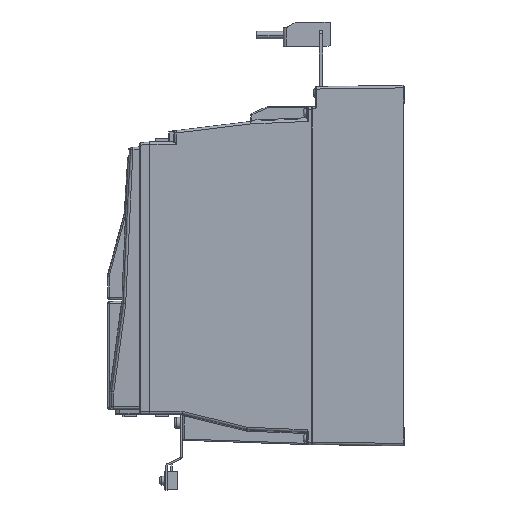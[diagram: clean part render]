
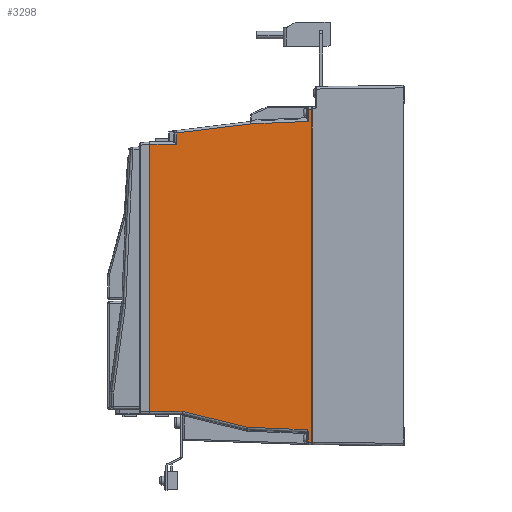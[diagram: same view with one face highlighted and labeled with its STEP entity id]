
A CAD part, left-side view. The second image highlights one B-rep face of the part: STEP entity #3298.
In plain terms, the highlighted planar face has unit normal (-1, 0, 0).
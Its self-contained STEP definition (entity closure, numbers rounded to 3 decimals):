
#18 = LINE ( 'NONE', #28671, #41601 ) ;
#99 = VERTEX_POINT ( 'NONE', #32065 ) ;
#129 = CARTESIAN_POINT ( 'NONE',  ( -64., 76.5, -289. ) ) ;
#155 = DIRECTION ( 'NONE',  ( 0., -1., 0. ) ) ;
#380 = CARTESIAN_POINT ( 'NONE',  ( -64., 76.5, -279.014 ) ) ;
#1243 = CARTESIAN_POINT ( 'NONE',  ( -64., 204.2, -47.5 ) ) ;
#1451 = ORIENTED_EDGE ( 'NONE', *, *, #32781, .T. ) ;
#2927 = CARTESIAN_POINT ( 'NONE',  ( -64., 177.407, -262.5 ) ) ;
#3298 = ADVANCED_FACE ( 'NONE', ( #16461 ), #48890, .F. ) ;
#3508 = VECTOR ( 'NONE', #31569, 1000. ) ;
#3524 = CARTESIAN_POINT ( 'NONE',  ( -64., 76.5, -28.98 ) ) ;
#4662 = DIRECTION ( 'NONE',  ( 0., 0., -1. ) ) ;
#4669 = CARTESIAN_POINT ( 'NONE',  ( -64., 202.8, -289. ) ) ;
#5917 = ORIENTED_EDGE ( 'NONE', *, *, #46288, .T. ) ;
#6467 = CARTESIAN_POINT ( 'NONE',  ( -64., 73.67, -287. ) ) ;
#7067 = CARTESIAN_POINT ( 'NONE',  ( -64., 77.259, -277.308 ) ) ;
#7097 = ORIENTED_EDGE ( 'NONE', *, *, #41818, .T. ) ;
#7594 = VECTOR ( 'NONE', #48138, 1000. ) ;
#8233 = EDGE_CURVE ( 'NONE', #29311, #42803, #33007, .T. ) ;
#8656 = CARTESIAN_POINT ( 'NONE',  ( -64., 76.535, -278.634 ) ) ;
#9172 = VERTEX_POINT ( 'NONE', #50205 ) ;
#10115 = ORIENTED_EDGE ( 'NONE', *, *, #41756, .T. ) ;
#10943 = CARTESIAN_POINT ( 'NONE',  ( -64., 213.846, -34.952 ) ) ;
#11433 = CARTESIAN_POINT ( 'NONE',  ( -64., 202.8, -47.5 ) ) ;
#12418 = CARTESIAN_POINT ( 'NONE',  ( -64., 76.5, -278.822 ) ) ;
#13084 = VECTOR ( 'NONE', #39873, 1000. ) ;
#13122 = DIRECTION ( 'NONE',  ( 0., -0.999, -0.041 ) ) ;
#14925 = CARTESIAN_POINT ( 'NONE',  ( -64., 125.725, -275.044 ) ) ;
#15289 = LINE ( 'NONE', #27361, #31877 ) ;
#15447 = LINE ( 'NONE', #11433, #19567 ) ;
#16136 = CARTESIAN_POINT ( 'NONE',  ( -64., 202.8, -262.5 ) ) ;
#16210 = LINE ( 'NONE', #40319, #51576 ) ;
#16264 = VERTEX_POINT ( 'NONE', #28644 ) ;
#16461 = FACE_OUTER_BOUND ( 'NONE', #43603, .T. ) ;
#16824 = ORIENTED_EDGE ( 'NONE', *, *, #32892, .T. ) ;
#17149 = LINE ( 'NONE', #40999, #52457 ) ;
#19567 = VECTOR ( 'NONE', #24299, 1000. ) ;
#21647 = CARTESIAN_POINT ( 'NONE',  ( -64., 77.5, -277.013 ) ) ;
#21985 = VERTEX_POINT ( 'NONE', #14925 ) ;
#23189 = VECTOR ( 'NONE', #32373, 1000. ) ;
#23418 = CARTESIAN_POINT ( 'NONE',  ( -64., 77.016, -277.606 ) ) ;
#23740 = DIRECTION ( 'NONE',  ( 0., 1., 0. ) ) ;
#23875 = DIRECTION ( 'NONE',  ( 0., 0.993, -0.121 ) ) ;
#24299 = DIRECTION ( 'NONE',  ( 0., 1., 0. ) ) ;
#25031 = LINE ( 'NONE', #129, #47976 ) ;
#25543 = CARTESIAN_POINT ( 'NONE',  ( -64., 76.5, -19. ) ) ;
#25761 = ORIENTED_EDGE ( 'NONE', *, *, #34411, .T. ) ;
#26056 = ORIENTED_EDGE ( 'NONE', *, *, #53025, .T. ) ;
#27361 = CARTESIAN_POINT ( 'NONE',  ( -64., 232.631, -44.384 ) ) ;
#27555 = LINE ( 'NONE', #10943, #3508 ) ;
#27748 = LINE ( 'NONE', #44075, #51463 ) ;
#27809 = EDGE_CURVE ( 'NONE', #99, #32521, #15447, .T. ) ;
#27861 = EDGE_CURVE ( 'NONE', #29311, #32521, #39562, .T. ) ;
#28644 = CARTESIAN_POINT ( 'NONE',  ( -64., 73.67, -19. ) ) ;
#28671 = CARTESIAN_POINT ( 'NONE',  ( -64., 125.536, -275.09 ) ) ;
#29311 = VERTEX_POINT ( 'NONE', #35167 ) ;
#30012 = VERTEX_POINT ( 'NONE', #6467 ) ;
#30435 = EDGE_CURVE ( 'NONE', #16264, #30012, #48993, .T. ) ;
#30555 = VECTOR ( 'NONE', #41039, 1000. ) ;
#31070 = VECTOR ( 'NONE', #23740, 1000. ) ;
#31273 = CARTESIAN_POINT ( 'NONE',  ( -64., 204.2, -262.5 ) ) ;
#31569 = DIRECTION ( 'NONE',  ( 0., 0.999, -0.043 ) ) ;
#31877 = VECTOR ( 'NONE', #23875, 1000. ) ;
#31886 = DIRECTION ( 'NONE',  ( 0., -0.972, -0.236 ) ) ;
#32065 = CARTESIAN_POINT ( 'NONE',  ( -64., 182.5, -47.5 ) ) ;
#32310 = CARTESIAN_POINT ( 'NONE',  ( -64., 202.8, -19. ) ) ;
#32373 = DIRECTION ( 'NONE',  ( 0., 0., -1. ) ) ;
#32514 = CARTESIAN_POINT ( 'NONE',  ( -64., 76.652, -278.27 ) ) ;
#32521 = VERTEX_POINT ( 'NONE', #1243 ) ;
#32672 = VERTEX_POINT ( 'NONE', #40550 ) ;
#32781 = EDGE_CURVE ( 'NONE', #9172, #30012, #16210, .T. ) ;
#32815 = DIRECTION ( 'NONE',  ( 1., 0., 0. ) ) ;
#32892 = EDGE_CURVE ( 'NONE', #35029, #38570, #27748, .T. ) ;
#32907 = CARTESIAN_POINT ( 'NONE',  ( -64., 73.67, -19. ) ) ;
#33007 = LINE ( 'NONE', #16136, #30555 ) ;
#34411 = EDGE_CURVE ( 'NONE', #34905, #99, #52219, .T. ) ;
#34905 = VERTEX_POINT ( 'NONE', #35277 ) ;
#35029 = VERTEX_POINT ( 'NONE', #25543 ) ;
#35167 = CARTESIAN_POINT ( 'NONE',  ( -64., 204.2, -262.5 ) ) ;
#35277 = CARTESIAN_POINT ( 'NONE',  ( -64., 182.5, -38.271 ) ) ;
#35599 = CARTESIAN_POINT ( 'NONE',  ( -64., 182.5, -289. ) ) ;
#36043 = DIRECTION ( 'NONE',  ( 0., 0., -1. ) ) ;
#36753 = ORIENTED_EDGE ( 'NONE', *, *, #46858, .T. ) ;
#36782 = ORIENTED_EDGE ( 'NONE', *, *, #8233, .T. ) ;
#36903 = B_SPLINE_CURVE_WITH_KNOTS ( 'NONE', 3,
 ( #43767, #7067, #23418, #39738, #32514, #8656, #12418, #380 ),
 .UNSPECIFIED., .F., .F.,
 ( 4, 2, 2, 4 ),
 ( 0., 0.001, 0.002, 0.002 ),
 .UNSPECIFIED. ) ;
#38570 = VERTEX_POINT ( 'NONE', #3524 ) ;
#39562 = LINE ( 'NONE', #31273, #7594 ) ;
#39738 = CARTESIAN_POINT ( 'NONE',  ( -64., 76.733, -278.099 ) ) ;
#39873 = DIRECTION ( 'NONE',  ( 0., 0., -1. ) ) ;
#40319 = CARTESIAN_POINT ( 'NONE',  ( -64., 202.8, -287. ) ) ;
#40550 = CARTESIAN_POINT ( 'NONE',  ( -64., 122.835, -30.995 ) ) ;
#40999 = CARTESIAN_POINT ( 'NONE',  ( -64., 76.92, -277.036 ) ) ;
#41039 = DIRECTION ( 'NONE',  ( 0., -1., 0. ) ) ;
#41601 = VECTOR ( 'NONE', #31886, 1000. ) ;
#41756 = EDGE_CURVE ( 'NONE', #51259, #9172, #25031, .T. ) ;
#41818 = EDGE_CURVE ( 'NONE', #38570, #32672, #27555, .T. ) ;
#42481 = AXIS2_PLACEMENT_3D ( 'NONE', #4669, #32815, #45638 ) ;
#42803 = VERTEX_POINT ( 'NONE', #2927 ) ;
#43308 = LINE ( 'NONE', #32310, #31070 ) ;
#43603 = EDGE_LOOP ( 'NONE', ( #1451, #50060, #36753, #16824, #7097, #5917, #25761, #47436, #43816, #36782, #51203, #48712, #26056, #10115 ) ) ;
#43767 = CARTESIAN_POINT ( 'NONE',  ( -64., 77.5, -277.013 ) ) ;
#43816 = ORIENTED_EDGE ( 'NONE', *, *, #27861, .F. ) ;
#44075 = CARTESIAN_POINT ( 'NONE',  ( -64., 76.5, -289. ) ) ;
#45638 = DIRECTION ( 'NONE',  ( 0., 0., -1. ) ) ;
#46288 = EDGE_CURVE ( 'NONE', #32672, #34905, #15289, .T. ) ;
#46506 = EDGE_CURVE ( 'NONE', #21985, #46813, #17149, .T. ) ;
#46813 = VERTEX_POINT ( 'NONE', #21647 ) ;
#46858 = EDGE_CURVE ( 'NONE', #16264, #35029, #43308, .T. ) ;
#47436 = ORIENTED_EDGE ( 'NONE', *, *, #27809, .T. ) ;
#47976 = VECTOR ( 'NONE', #4662, 1000. ) ;
#48138 = DIRECTION ( 'NONE',  ( 0., 0., 1. ) ) ;
#48712 = ORIENTED_EDGE ( 'NONE', *, *, #46506, .T. ) ;
#48890 = PLANE ( 'NONE',  #42481 ) ;
#48993 = LINE ( 'NONE', #32907, #23189 ) ;
#50060 = ORIENTED_EDGE ( 'NONE', *, *, #30435, .F. ) ;
#50205 = CARTESIAN_POINT ( 'NONE',  ( -64., 76.5, -287. ) ) ;
#50749 = EDGE_CURVE ( 'NONE', #42803, #21985, #18, .T. ) ;
#51203 = ORIENTED_EDGE ( 'NONE', *, *, #50749, .T. ) ;
#51259 = VERTEX_POINT ( 'NONE', #52475 ) ;
#51463 = VECTOR ( 'NONE', #36043, 1000. ) ;
#51576 = VECTOR ( 'NONE', #155, 1000. ) ;
#52219 = LINE ( 'NONE', #35599, #13084 ) ;
#52457 = VECTOR ( 'NONE', #13122, 1000. ) ;
#52475 = CARTESIAN_POINT ( 'NONE',  ( -64., 76.5, -279.014 ) ) ;
#53025 = EDGE_CURVE ( 'NONE', #46813, #51259, #36903, .T. ) ;
